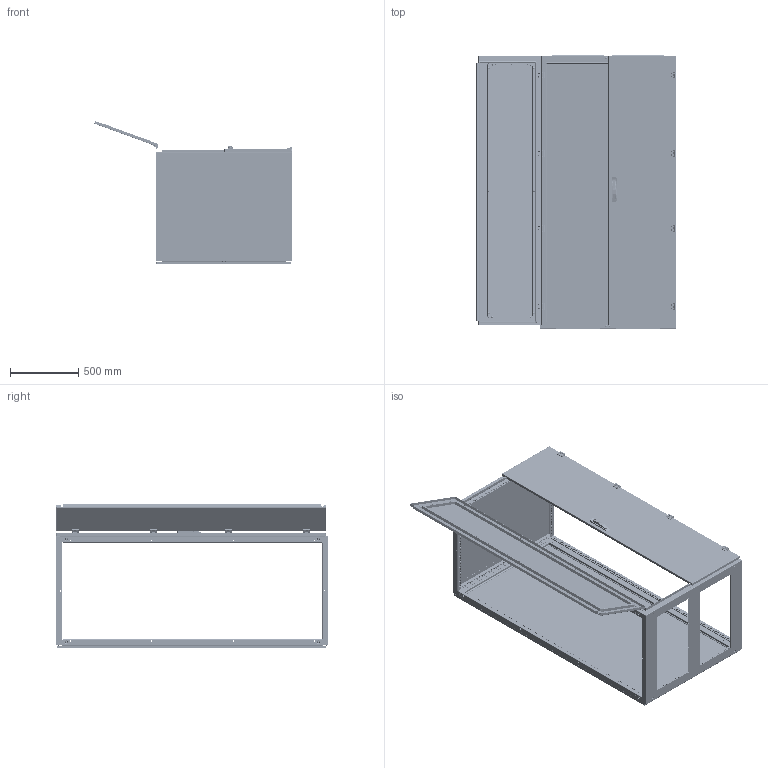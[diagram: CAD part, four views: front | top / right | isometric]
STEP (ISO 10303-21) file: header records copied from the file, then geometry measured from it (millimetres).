
FILE_DESCRIPTION (( 'STEP AP214' ), '1' );
FILE_NAME ('QA201008.step', '2011-08-11T09:43:47', ( 'Radek Veselý' ), ( 'Siemens and Partners' ), 'SwSTEP 2.0', 'SolidWorks 2006303', '' );
FILE_SCHEMA (( 'AUTOMOTIVE_DESIGN' ));
Length unit declared in the file: millimetre
Products named in the file (1): QA201008
Bounding box: 1468.78 x 2004.5 x 1062.7 mm (x, y, z)
Volume: 15057440.8 mm3; surface area: 17358963 mm2
Topology: 158 solids, 158 shells, 9330 faces, 25904 edges, 16863 vertices
Faces by surface type: plane 4652, cylinder 3870, cone 486, bspline 269, torus 53
Entity records: 388513 total; most frequent: CARTESIAN_POINT 69581, DIRECTION 51442, ORIENTED_EDGE 51128, EDGE_CURVE 25564, AXIS2_PLACEMENT_3D 17461, VERTEX_POINT 16863, VECTOR 16520, LINE 16520
